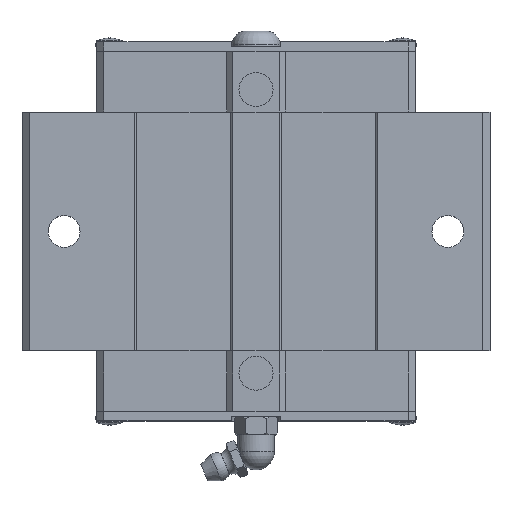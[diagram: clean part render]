
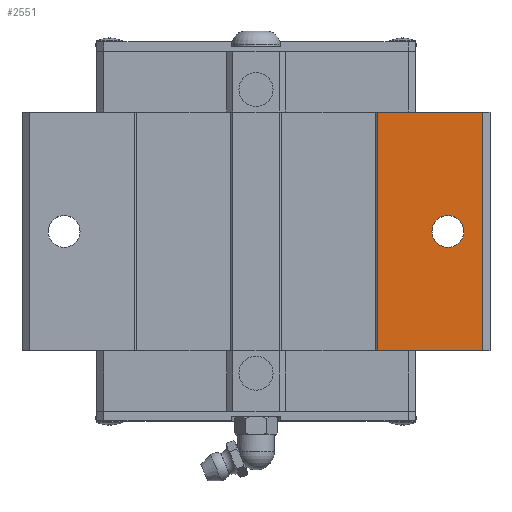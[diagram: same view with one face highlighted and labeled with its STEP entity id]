
A CAD part, top view. The second image highlights one B-rep face of the part: STEP entity #2551.
In plain terms, the highlighted planar face has unit normal (0, 0, 1).
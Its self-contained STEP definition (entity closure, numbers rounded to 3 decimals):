
#2249=EDGE_CURVE('',#3121,#3687,#6063,.T.);
#2551=ADVANCED_FACE('',(#6397,#6398),#6399,.T.);
#2587=EDGE_CURVE('',#3687,#3741,#6436,.T.);
#3119=EDGE_CURVE('',#3741,#3265,#7034,.T.);
#3121=VERTEX_POINT('',#7036);
#3265=VERTEX_POINT('',#7192);
#3687=VERTEX_POINT('',#7657);
#3741=VERTEX_POINT('',#7713);
#4207=VERTEX_POINT('',#8229);
#4251=EDGE_CURVE('',#4207,#5037,#8276,.T.);
#4913=EDGE_CURVE('',#5037,#4207,#8993,.T.);
#5037=VERTEX_POINT('',#9129);
#5615=EDGE_CURVE('',#3121,#3265,#9769,.T.);
#6063=LINE('',#10476,#10477);
#6397=FACE_OUTER_BOUND('',#11038,.T.);
#6398=FACE_BOUND('',#11039,.T.);
#6399=PLANE('',#11040);
#6436=LINE('',#11103,#11104);
#7034=LINE('',#12100,#12101);
#7036=CARTESIAN_POINT('',(48.5,66.0,48.0));
#7192=CARTESIAN_POINT('',(48.5,15.0,48.0));
#7657=CARTESIAN_POINT('',(26.0,66.0,48.0));
#7713=CARTESIAN_POINT('',(26.0,15.0,48.0));
#8229=CARTESIAN_POINT('',(44.4,40.5,48.0));
#8276=CIRCLE('',#14097,3.4);
#8993=CIRCLE('',#15298,3.4);
#9129=CARTESIAN_POINT('',(37.6,40.5,48.0));
#9769=LINE('',#16614,#16615);
#10476=CARTESIAN_POINT('',(48.5,66.0,48.0));
#10477=VECTOR('',#17103,1.0);
#11038=EDGE_LOOP('',(#17536,#17537,#17538,#17539));
#11039=EDGE_LOOP('',(#17540,#17541));
#11040=AXIS2_PLACEMENT_3D('',#17542,#17543,#17544);
#11103=CARTESIAN_POINT('',(26.0,78.75,48.0));
#11104=VECTOR('',#17568,1.0);
#12100=CARTESIAN_POINT('',(48.5,15.0,48.0));
#12101=VECTOR('',#18309,1.0);
#14097=AXIS2_PLACEMENT_3D('',#19609,#19610,#19611);
#15298=AXIS2_PLACEMENT_3D('',#20341,#20342,#20343);
#16614=CARTESIAN_POINT('',(48.5,66.0,48.0));
#16615=VECTOR('',#21240,1.0);
#17103=DIRECTION('',(-1.0,0.0,0.0));
#17536=ORIENTED_EDGE('',*,*,#2587,.T.);
#17537=ORIENTED_EDGE('',*,*,#3119,.T.);
#17538=ORIENTED_EDGE('',*,*,#5615,.F.);
#17539=ORIENTED_EDGE('',*,*,#2249,.T.);
#17540=ORIENTED_EDGE('',*,*,#4251,.T.);
#17541=ORIENTED_EDGE('',*,*,#4913,.T.);
#17542=CARTESIAN_POINT('',(-48.5,66.0,48.0));
#17543=DIRECTION('',(0.0,0.0,1.0));
#17544=DIRECTION('',(-1.0,0.0,0.0));
#17568=DIRECTION('',(0.0,-1.0,0.0));
#18309=DIRECTION('',(1.0,0.0,0.0));
#19609=CARTESIAN_POINT('',(41.0,40.5,48.0));
#19610=DIRECTION('',(0.0,0.0,-1.0));
#19611=DIRECTION('',(1.0,0.0,0.0));
#20341=CARTESIAN_POINT('',(41.0,40.5,48.0));
#20342=DIRECTION('',(0.0,0.0,-1.0));
#20343=DIRECTION('',(1.0,0.0,0.0));
#21240=DIRECTION('',(0.0,-1.0,0.0));
